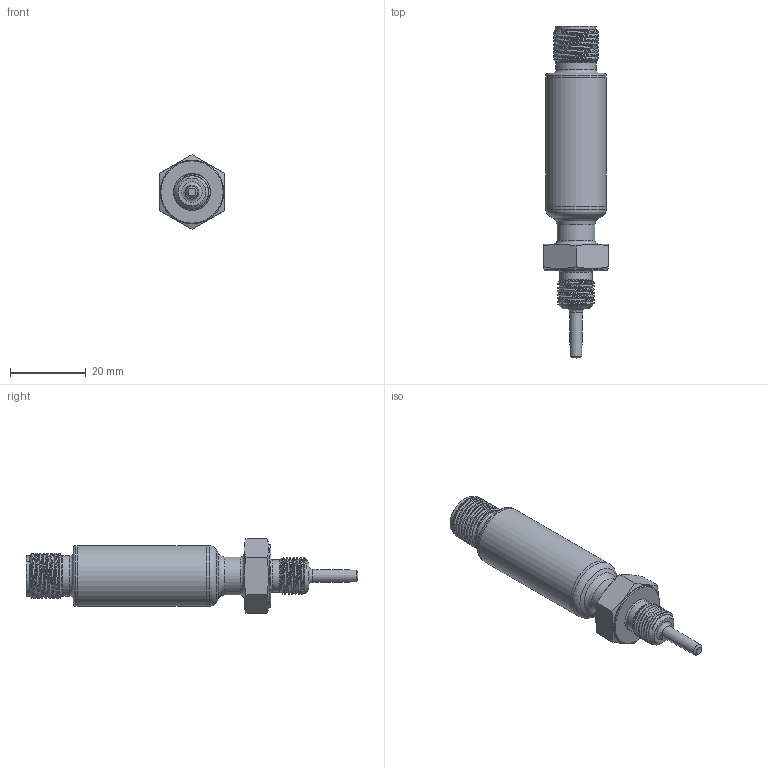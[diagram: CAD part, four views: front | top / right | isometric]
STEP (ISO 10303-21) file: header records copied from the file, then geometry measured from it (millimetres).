
FILE_DESCRIPTION((''),'2;1');
FILE_NAME('K:\Comune\Vol1\Disegni\INVENTOR\Progetti in 3D\EVOMINI+ IO-LINK TURCK\H017042\9910650.stp','2013-10-24T17:48:29',('michele.miglioli'),(''),'Autodesk Inventor 2010','Autodesk Inventor 2010','');
FILE_SCHEMA(('AUTOMOTIVE_DESIGN { 1 0 10303 214 1 1 1 1 }'));
Length unit declared in the file: millimetre
Products named in the file (8): 9910650; Basetta a 4 contatti per M12 maschio; Fondello per connettore M12; Isolatore M12 maschio completo; Isolatore maschio per M12; Contatto maschio; Tubo Ø16mm; Pozzetto termometrico per 9910650
Assembly tree (10 placements, depth 4):
  9910650
    Basetta a 4 contatti per M12 maschio
      Fondello per connettore M12
      Isolatore M12 maschio completo
        Isolatore maschio per M12
        Contatto maschio  x4
    Tubo Ø16mm
    Pozzetto termometrico per 9910650
Bounding box: 17 x 87.5 x 19.63 mm (x, y, z)
Volume: 6101 mm3; surface area: 8035.3 mm2
Topology: 8 solids, 8 shells, 239 faces, 586 edges, 372 vertices
Faces by surface type: plane 91, cylinder 57, bspline 46, cone 27, torus 10, sphere 8
Full cylindrical faces by diameter (mm): 1 x8, 1.3 x5, 8.5 x1, 9.7 x1, 10 x1, 10.7 x1, 14.9 x2, 15 x1, 16 x3, 16.8 x1
Entity records: 10593 total; most frequent: CARTESIAN_POINT 5757, ORIENTED_EDGE 936, DIRECTION 889, EDGE_CURVE 468, AXIS2_PLACEMENT_3D 336, VERTEX_POINT 323, EDGE_LOOP 289, VECTOR 217
